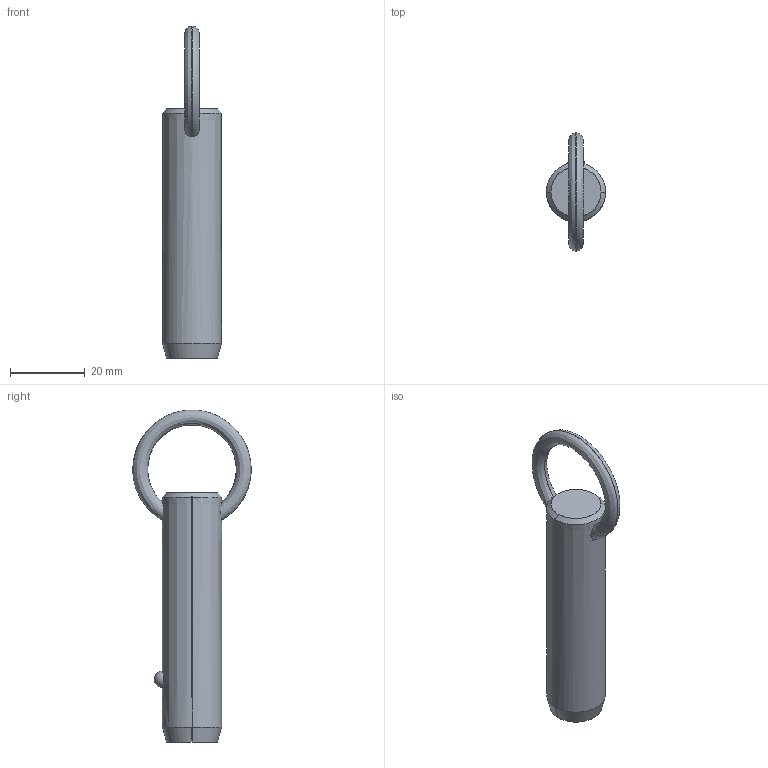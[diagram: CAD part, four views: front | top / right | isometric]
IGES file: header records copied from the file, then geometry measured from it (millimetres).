
Start section: SolidWorks IGES file using analytic representation for surfaces
Global section: file name: C:\Users\liam_\OneDrive\Documents\WORK\Work for WixRoyd\Job Files\J-00019 - Matt Davis CAD Checking\04. CAD Drawings\automotion20190605\P1250.2_v2\P1250.2_v2_20190729_IGES\P1250.062-150.igs; native system: SolidWorks 2017; preprocessor: SolidWorks 2017; author: liam_; date: 190729.233051; units: millimetre
Bounding box: 15.8 x 31.7 x 88.8 mm (x, y, z)
Surface area: 4479.7 mm2 (no closed solid volume)
Topology: 0 solids, 0 shells, 12 faces, 292 edges, 290 vertices
Faces by surface type: revolution 8, bspline 4
